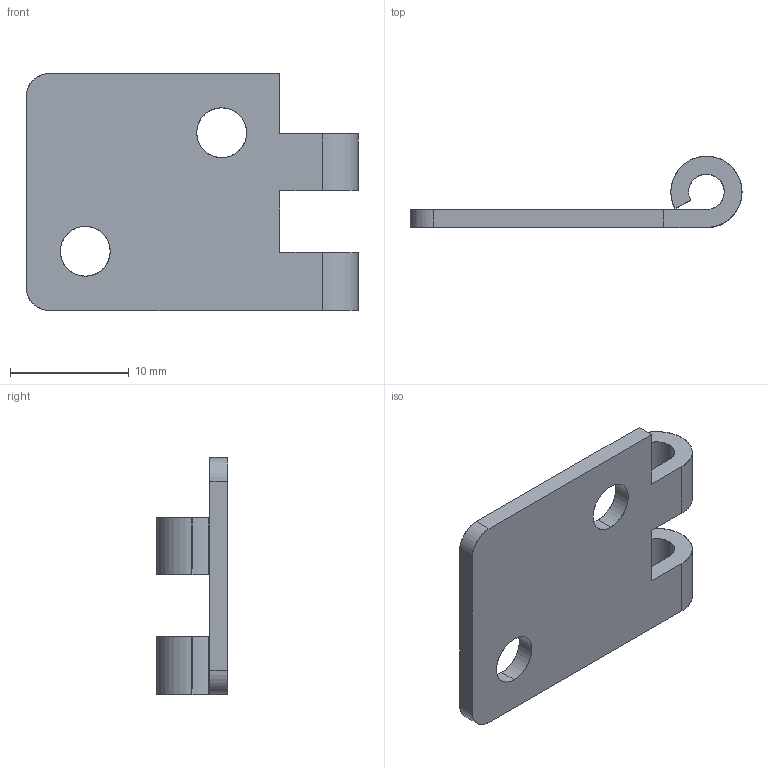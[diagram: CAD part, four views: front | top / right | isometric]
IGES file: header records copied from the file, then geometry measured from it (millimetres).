
Start section: SolidWorks IGES file using analytic representation for surfaces
Global section: file name: Z:\Mes documents\ATAO iges\Gamme CC\CC 404\404.010.00.IGS; native system: SolidWorks 2008; preprocessor: SolidWorks 2008; author: cbrechard; date: 110628.161608; units: millimetre
Bounding box: 28 x 6 x 20 mm (x, y, z)
Surface area: 1346.9 mm2 (no closed solid volume)
Topology: 0 solids, 0 shells, 30 faces, 500 edges, 500 vertices
Faces by surface type: revolution 18, bspline 12
